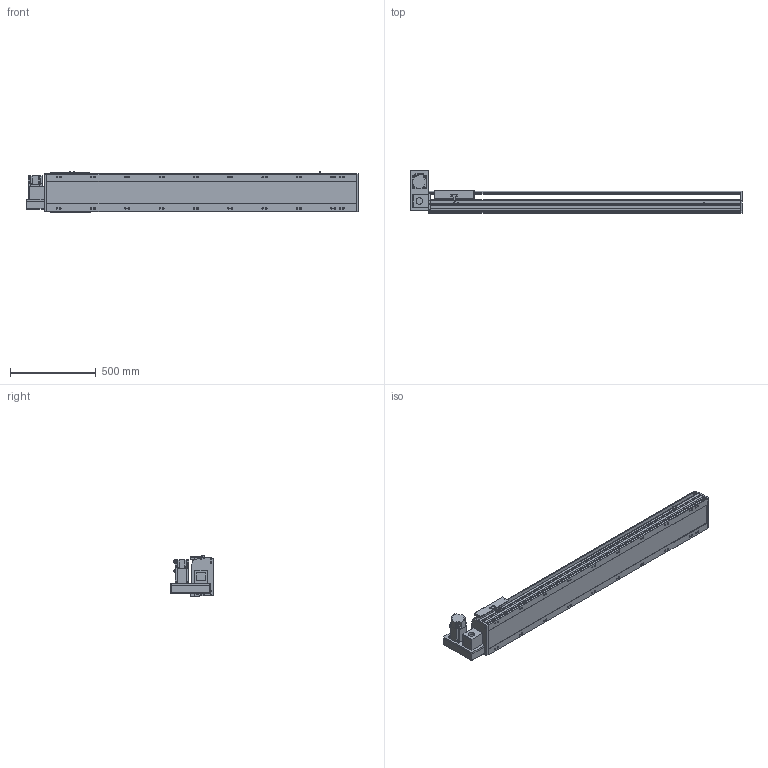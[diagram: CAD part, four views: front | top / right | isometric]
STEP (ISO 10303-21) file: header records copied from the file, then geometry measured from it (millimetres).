
FILE_DESCRIPTION(/* description */ ('STEP AP214'),/* implementation_level */ '2;1');
FILE_NAME(/* name */ 'PBS220-P40-S1450-LU-T75-C1-N(0)',/* time_stamp */ '2022-06-13T02:30:15+02:00',/* author */ ('License CC BY-ND 4.0'),/* organization */ ('CADENAS'),/* preprocessor_version */ 'ST-DEVELOPER v18.102',/* originating_system */ 'PARTsolutions',/* authorisation */ ' ');
FILE_SCHEMA (('AUTOMOTIVE_DESIGN {1 0 10303 214 3 1 1}'));
Length unit declared in the file: millimetre
Products named in the file (7): PBS220-P40-S1450-LU-T75-C1-N(0); PBS220_sensor; PBS220_plant; PBS220_sliser; T75-p1; PBS220T-LU_motors; PBS220-S1450()_body
Assembly tree (8 placements, depth 2):
  PBS220-P40-S1450-LU-T75-C1-N(0)
    PBS220_sensor  x3
    PBS220_plant
    PBS220_sliser
    T75-p1
    PBS220T-LU_motors
    PBS220-S1450()_body
Bounding box: 1934 x 247 x 238.5 mm (x, y, z)
Volume: 27512408 mm3; surface area: 2617709.2 mm2
Topology: 8 solids, 8 shells, 938 faces, 2452 edges, 1594 vertices
Faces by surface type: plane 606, cylinder 288, cone 44
Full cylindrical faces by diameter (mm): 2.013 x4, 4.5 x14, 4.917 x4, 6 x7, 6.647 x8, 8 x10, 8.376 x20, 8.5 x20, 10 x6, 14 x20, 38 x2, 40 x1, 70 x1
Entity records: 26253 total; most frequent: CARTESIAN_POINT 4624, DIRECTION 4563, ORIENTED_EDGE 4178, EDGE_CURVE 2089, AXIS2_PLACEMENT_3D 1607, VERTEX_POINT 1448, LINE 1349, VECTOR 1349
